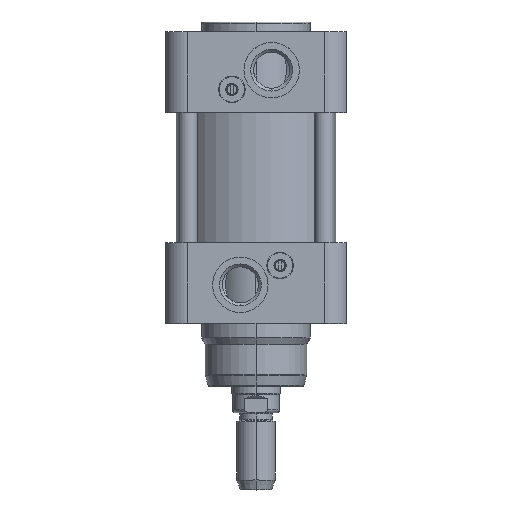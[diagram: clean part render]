
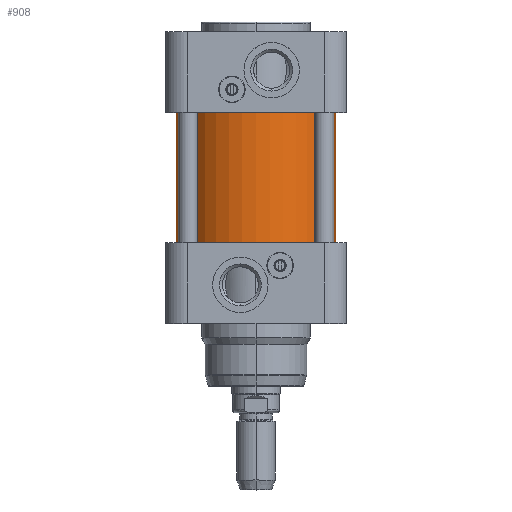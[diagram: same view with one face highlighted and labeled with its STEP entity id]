
A CAD part, top view. The second image highlights one B-rep face of the part: STEP entity #908.
In plain terms, the highlighted cylindrical face has radius 33 mm (diameter 66 mm), a partial arc.
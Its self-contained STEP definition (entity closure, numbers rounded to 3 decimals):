
#908=ADVANCED_FACE('0:35',(#2411),#2412,.T.);
#2411=FACE_OUTER_BOUND('',#4626,.T.);
#2412=CYLINDRICAL_SURFACE('',#4627,33.0);
#4626=EDGE_LOOP('',(#6876,#6877,#6878,#6879));
#4627=AXIS2_PLACEMENT_3D('',#6880,#6881,#6882);
#6876=ORIENTED_EDGE('',*,*,#13159,.T.);
#6877=ORIENTED_EDGE('',*,*,#13157,.F.);
#6878=ORIENTED_EDGE('',*,*,#13161,.T.);
#6879=ORIENTED_EDGE('',*,*,#13168,.F.);
#6880=CARTESIAN_POINT('',(0.0,0.0,0.0));
#6881=DIRECTION('',(0.0,-1.0,0.0));
#6882=DIRECTION('',(1.0,0.0,0.0));
#13157=EDGE_CURVE('0:62',#15487,#15483,#15489,.T.);
#13159=EDGE_CURVE('',#15491,#15483,#15492,.T.);
#13161=EDGE_CURVE('',#15487,#15493,#15495,.T.);
#13168=EDGE_CURVE('',#15491,#15493,#15504,.T.);
#15483=VERTEX_POINT('',#18781);
#15487=VERTEX_POINT('',#18786);
#15489=CIRCLE('',#18789,33.0);
#15491=VERTEX_POINT('',#18791);
#15492=LINE('',#18792,#18793);
#15493=VERTEX_POINT('',#18794);
#15495=LINE('',#18796,#18797);
#15504=CIRCLE('',#18808,33.0);
#18781=CARTESIAN_POINT('',(33.0,26.8,0.));
#18786=CARTESIAN_POINT('',(-33.0,26.8,0.));
#18789=AXIS2_PLACEMENT_3D('',#23955,#23956,#23957);
#18791=CARTESIAN_POINT('',(33.0,-26.8,0.));
#18792=CARTESIAN_POINT('',(33.0,0.0,0.));
#18793=VECTOR('',#23958,1.0);
#18794=CARTESIAN_POINT('',(-33.0,-26.8,0.));
#18796=CARTESIAN_POINT('',(-33.0,0.0,0.));
#18797=VECTOR('',#23962,1.0);
#18808=AXIS2_PLACEMENT_3D('',#23971,#23972,#23973);
#23955=CARTESIAN_POINT('',(0.0,26.8,0.0));
#23956=DIRECTION('',(-0.0,1.0,0.0));
#23957=DIRECTION('',(1.0,0.0,0.0));
#23958=DIRECTION('',(-0.0,1.0,-0.0));
#23962=DIRECTION('',(0.0,-1.0,0.0));
#23971=CARTESIAN_POINT('',(0.0,-26.8,0.0));
#23972=DIRECTION('',(0.0,-1.0,0.0));
#23973=DIRECTION('',(1.0,0.0,0.0));
